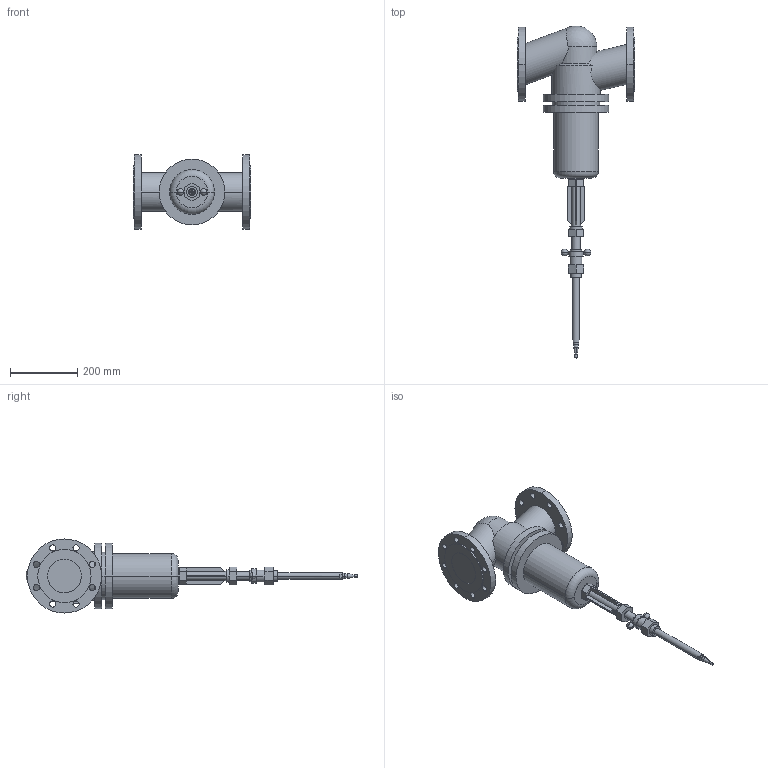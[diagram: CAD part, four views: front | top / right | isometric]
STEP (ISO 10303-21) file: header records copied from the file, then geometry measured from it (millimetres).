
FILE_DESCRIPTION(('CoCreate Modeling STEP Export'),'2;1');
FILE_NAME('c000004783.stp','2011-09-22T11:17:16',(''),(''),'CoCreate Modeling STEP processor for AP214 (Solid Model)','CoCreate Modeling 17.0 01-Apr-2010 (C) Parametric Technology GmbH','');
FILE_SCHEMA(('AUTOMOTIVE_DESIGN { 1 0 10303 214 1 1 1 1 }'));
Length unit declared in the file: millimetre
Products named in the file (1): 1
Bounding box: 350 x 985.02 x 220 mm (x, y, z)
Volume: 10698885.5 mm3; surface area: 558827.1 mm2
Topology: 1 solids, 1 shells, 208 faces, 520 edges, 331 vertices
Faces by surface type: cylinder 102, plane 84, sphere 10, cone 10, torus 2
Entity records: 7519 total; most frequent: CARTESIAN_POINT 1342, ORIENTED_EDGE 1020, DIRECTION 815, EDGE_CURVE 510, VERTEX_POINT 331, AXIS2_PLACEMENT_3D 287, EDGE_LOOP 267, VECTOR 241
